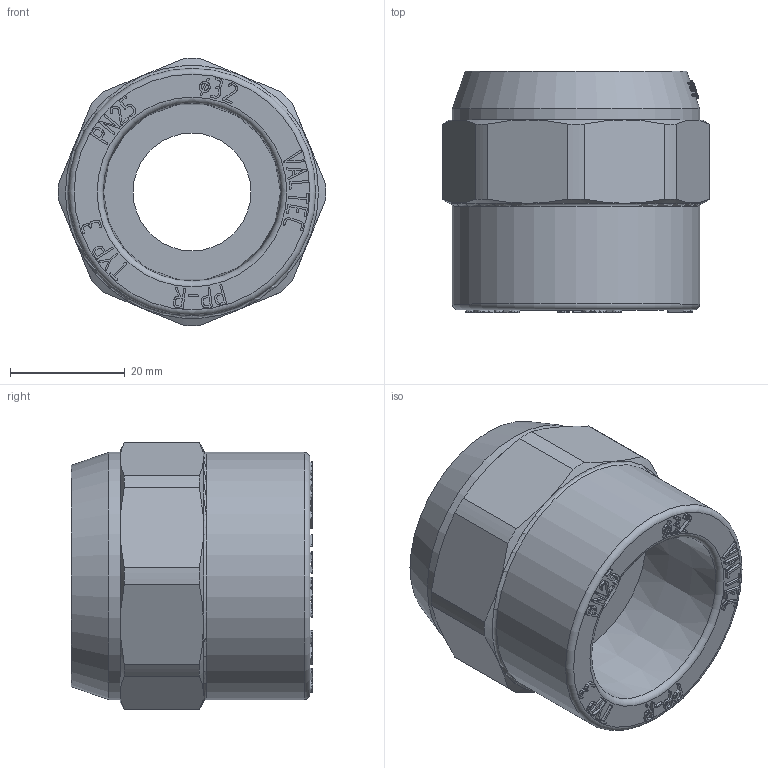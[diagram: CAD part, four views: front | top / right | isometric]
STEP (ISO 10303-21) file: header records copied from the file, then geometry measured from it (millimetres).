
FILE_DESCRIPTION(('STEP AP203'), '1');
FILE_NAME('ÂÐ.753153.013 - VTp.702.0.03205', '', ('UNSPECIFIED'), ('UNSPECIFIED'), 'C3D Converter', 'C3D Toolkit', '');
FILE_SCHEMA(('CONFIG_CONTROL_DESIGN'));
Length unit declared in the file: millimetre
Products named in the file (4): ВР.753153.013; ВР.302639.015.000; ВР.713661.002
Assembly tree (3 placements, depth 3):
  ВР.753153.013
    ВР.302639.015.000
      ВР.713661.002
      (unnamed)
Bounding box: 46.49 x 42 x 46.49 mm (x, y, z)
Volume: 38883.6 mm3; surface area: 19909.2 mm2
Topology: 3 solids, 3 shells, 877 faces, 2434 edges, 1617 vertices
Faces by surface type: extrusion 463, plane 350, cylinder 32, cone 24, torus 8
Full cylindrical faces by diameter (mm): 20.5 x1, 24.118 x1, 27 x2, 29.5 x8, 33.5 x10, 43 x2
Entity records: 31334 total; most frequent: CARTESIAN_POINT 10841, ORIENTED_EDGE 4754, DIRECTION 2786, EDGE_CURVE 2377, VECTOR 1636, VERTEX_POINT 1603, B_SPLINE_CURVE_WITH_KNOTS 1508, LINE 1173
